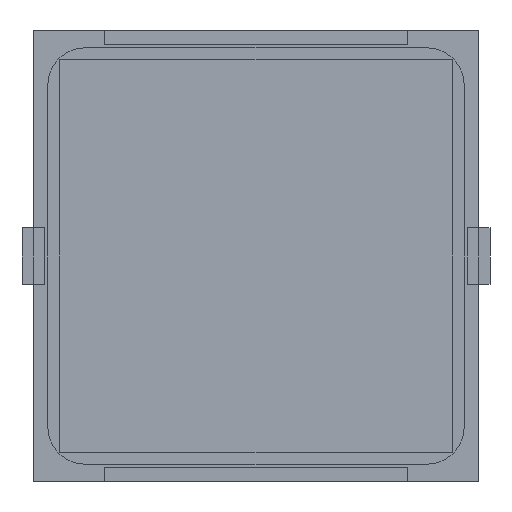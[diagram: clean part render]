
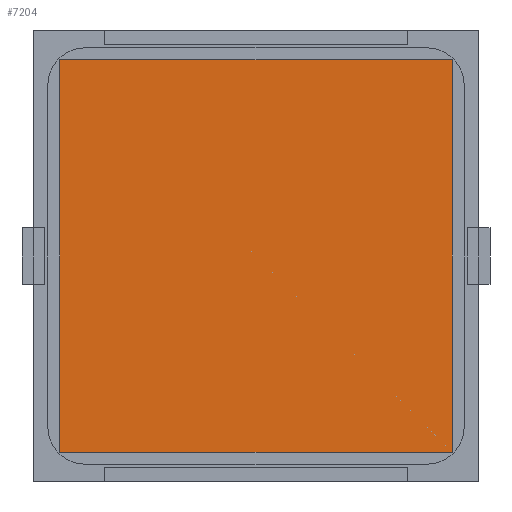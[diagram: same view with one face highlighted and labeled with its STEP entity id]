
A CAD part, front view. The second image highlights one B-rep face of the part: STEP entity #7204.
In plain terms, the highlighted planar face has unit normal (0, -1, 0).
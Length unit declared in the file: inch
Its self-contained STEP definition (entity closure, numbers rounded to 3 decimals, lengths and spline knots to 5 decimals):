
#59 = ORIENTED_EDGE ( 'NONE', *, *, #7980, .F. ) ;
#707 = CARTESIAN_POINT ( 'NONE',  ( 0.68898, -0.005, 0.68898 ) ) ;
#872 = EDGE_CURVE ( 'NONE', #8306, #5404, #3874, .T. ) ;
#879 = CARTESIAN_POINT ( 'NONE',  ( -0.68898, -0.005, 0.68898 ) ) ;
#1597 = CARTESIAN_POINT ( 'NONE',  ( -0.68898, -0.005, 0.68898 ) ) ;
#1719 = CARTESIAN_POINT ( 'NONE',  ( 0.68898, -0.005, -0.68898 ) ) ;
#2668 = CARTESIAN_POINT ( 'NONE',  ( -0.68898, -0.005, 0.68898 ) ) ;
#3042 = PLANE ( 'NONE',  #6103 ) ;
#3238 = DIRECTION ( 'NONE',  ( -1., 0., 0. ) ) ;
#3632 = FACE_OUTER_BOUND ( 'NONE', #7609, .T. ) ;
#3661 = CARTESIAN_POINT ( 'NONE',  ( -0.68898, -0.005, -0.68898 ) ) ;
#3874 = LINE ( 'NONE', #7667, #5939 ) ;
#4010 = DIRECTION ( 'NONE',  ( 0., 0., 1. ) ) ;
#4050 = VERTEX_POINT ( 'NONE', #707 ) ;
#4158 = EDGE_CURVE ( 'NONE', #9619, #8306, #5124, .T. ) ;
#4476 = VECTOR ( 'NONE', #8528, 39.37008 ) ;
#4501 = ORIENTED_EDGE ( 'NONE', *, *, #4158, .F. ) ;
#4625 = ORIENTED_EDGE ( 'NONE', *, *, #7067, .F. ) ;
#5124 = LINE ( 'NONE', #3661, #9332 ) ;
#5259 = CARTESIAN_POINT ( 'NONE',  ( -0.68898, -0.005, -0.68898 ) ) ;
#5317 = LINE ( 'NONE', #1719, #5868 ) ;
#5404 = VERTEX_POINT ( 'NONE', #879 ) ;
#5495 = ORIENTED_EDGE ( 'NONE', *, *, #872, .F. ) ;
#5622 = LINE ( 'NONE', #2668, #4476 ) ;
#5868 = VECTOR ( 'NONE', #7413, 39.37008 ) ;
#5939 = VECTOR ( 'NONE', #4010, 39.37008 ) ;
#6103 = AXIS2_PLACEMENT_3D ( 'NONE', #1597, #8268, #8974 ) ;
#6118 = CARTESIAN_POINT ( 'NONE',  ( 0.68898, -0.005, -0.68898 ) ) ;
#7067 = EDGE_CURVE ( 'NONE', #5404, #4050, #5622, .T. ) ;
#7204 = ADVANCED_FACE ( 'NONE', ( #3632 ), #3042, .F. ) ;
#7413 = DIRECTION ( 'NONE',  ( 0., 0., -1. ) ) ;
#7609 = EDGE_LOOP ( 'NONE', ( #5495, #4501, #59, #4625 ) ) ;
#7667 = CARTESIAN_POINT ( 'NONE',  ( -0.68898, -0.005, -0.68898 ) ) ;
#7980 = EDGE_CURVE ( 'NONE', #4050, #9619, #5317, .T. ) ;
#8268 = DIRECTION ( 'NONE',  ( 0., 1., 0. ) ) ;
#8306 = VERTEX_POINT ( 'NONE', #5259 ) ;
#8528 = DIRECTION ( 'NONE',  ( 1., 0., 0. ) ) ;
#8974 = DIRECTION ( 'NONE',  ( 0., 0., 1. ) ) ;
#9332 = VECTOR ( 'NONE', #3238, 39.37008 ) ;
#9619 = VERTEX_POINT ( 'NONE', #6118 ) ;
